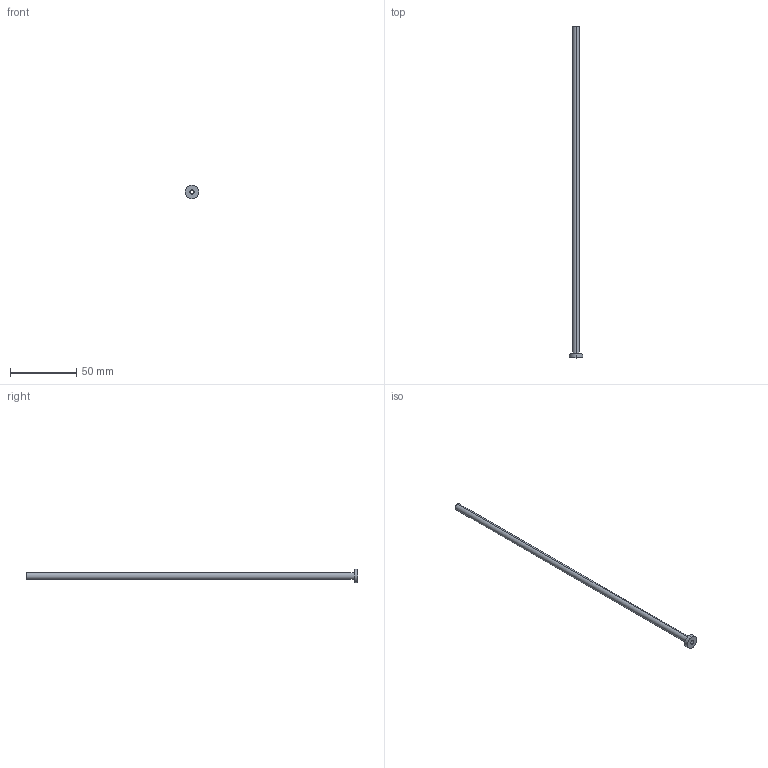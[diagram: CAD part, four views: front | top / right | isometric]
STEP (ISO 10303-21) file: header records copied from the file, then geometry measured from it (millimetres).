
FILE_DESCRIPTION (( 'STEP AP214' ), '1' );
FILE_NAME ('ET-ETN-3x250.STEP', '2019-12-16T15:07:13', ( 'August' ), ( '' ), 'SwSTEP 2.0', 'SolidWorks 2018', '' );
FILE_SCHEMA (( 'AUTOMOTIVE_DESIGN' ));
Length unit declared in the file: millimetre
Products named in the file (1): ET-ETN-3x250
Bounding box: 10 x 250 x 10 mm (x, y, z)
Volume: 3014.1 mm3; surface area: 6665.5 mm2
Topology: 1 solids, 1 shells, 13 faces, 26 edges, 16 vertices
Faces by surface type: cylinder 8, plane 3, cone 2
Entity records: 382 total; most frequent: DIRECTION 70, CARTESIAN_POINT 56, ORIENTED_EDGE 52, AXIS2_PLACEMENT_3D 30, EDGE_CURVE 26, VERTEX_POINT 16, CIRCLE 16, EDGE_LOOP 16
